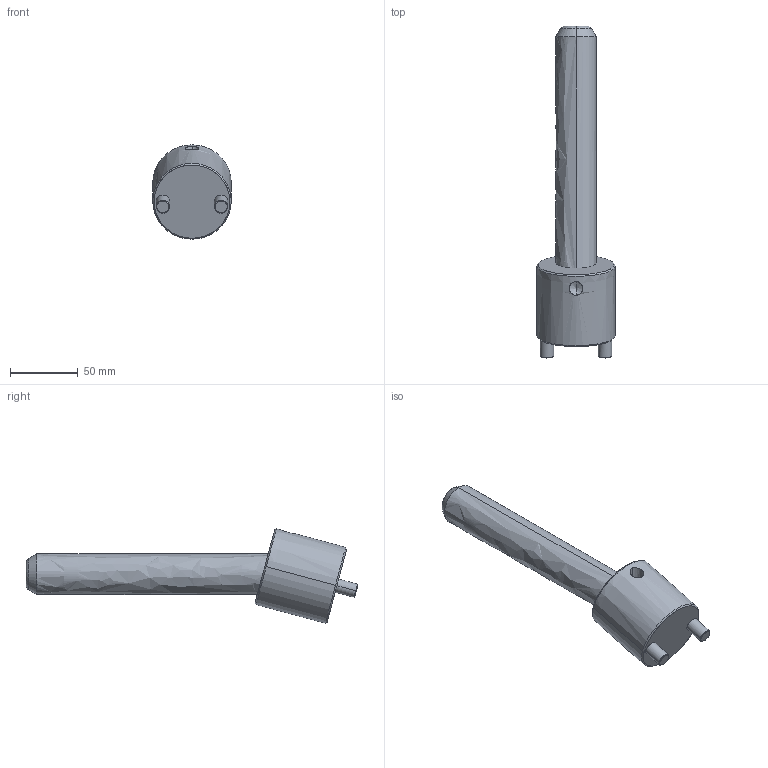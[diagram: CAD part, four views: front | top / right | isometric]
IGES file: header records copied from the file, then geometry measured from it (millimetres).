
Start section: START RECORD GO HERE.
Global section: file name: CI1530175.igs; native system: DASSAULT SYSTEMES CATIA V5 R20 - www.3ds.com; preprocessor: CATIA Version 5 Release 20 ; author: r.borello; organization: CFTORINO; date: 20190621.162213; units: millimetre
Bounding box: 58 x 245.33 x 69.74 mm (x, y, z)
Surface area: 42572.8 mm2 (no closed solid volume)
Topology: 0 solids, 0 shells, 39 faces, 162 edges, 160 vertices
Faces by surface type: revolution 32, plane 7
